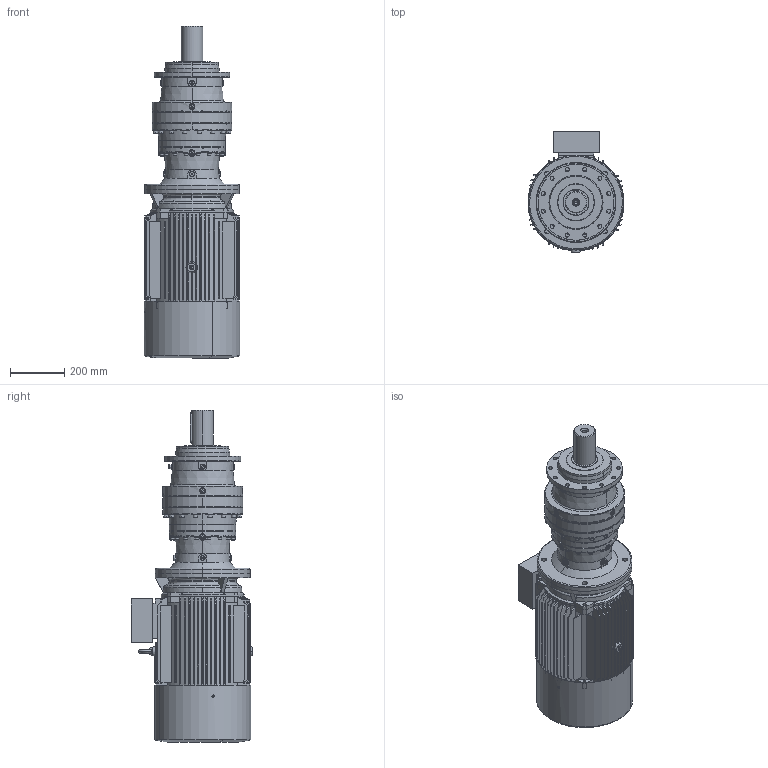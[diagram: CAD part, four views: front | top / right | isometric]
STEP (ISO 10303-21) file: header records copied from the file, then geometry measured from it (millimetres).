
FILE_DESCRIPTION (( 'STEP AP203' ), '1' );
FILE_NAME ('PVL-1902L-HS180L-4.STEP', '2019-05-27T10:22:24', ( '' ), ( '' ), 'SwSTEP 2.0', 'SolidWorks 2012', '' );
FILE_SCHEMA (( 'CONFIG_CONTROL_DESIGN' ));
Products named in the file (15): Y2-180C++A+¦-¯ª¦+¦_-++ñ; Y2-180-4.6.8-ª+---®+_-++ñ; Y2-180LB5+À+¿_-++ñ; Y2-180+¦i-_-++ñ; Eyebolts GB_GB_FASTENER_SCREWS_FRS M12; PNL_1902L_0_0_A18_B5_ML25A_FL5A_0_0_0_0_0_0_0_0_0_0_0_M1; FL5A_Varsayìlan; ML25A_Varsayìlan; P19_Varsayìlan; 15180B5_Varsayìlan; EK1902L_Varsayìlan; PVL-1902L-HS180L-4; M3-HS180L-FF-B5; Y2-180-4.6.8+ª-¯ª­-È®+_-++ñ; M3-180L-FF-B5
Assembly tree (14 placements, depth 4):
  PVL-1902L-HS180L-4
    PNL_1902L_0_0_A18_B5_ML25A_FL5A_0_0_0_0_0_0_0_0_0_0_0_M1
      P19_Varsayìlan
      15180B5_Varsayìlan
      ML25A_Varsayìlan
      EK1902L_Varsayìlan
      FL5A_Varsayìlan
    M3-HS180L-FF-B5
      M3-180L-FF-B5
        Eyebolts GB_GB_FASTENER_SCREWS_FRS M12
        Y2-180LB5+À+¿_-++ñ
        Y2-180+¦i-_-++ñ
        Y2-180-4.6.8-ª+---®+_-++ñ
        Y2-180C++A+¦-¯ª¦+¦_-++ñ
        Y2-180-4.6.8+ª-¯ª­-È®+_-++ñ
Bounding box: 354.06 x 448.7 x 1226 mm (x, y, z)
Volume: 33250877.4 mm3; surface area: 3994619.3 mm2
Topology: 16 solids, 16 shells, 2555 faces, 6811 edges, 4376 vertices
Faces by surface type: plane 1145, cylinder 820, cone 380, bspline 178, torus 32
Entity records: 91163 total; most frequent: CARTESIAN_POINT 26646, ORIENTED_EDGE 13490, DIRECTION 13070, EDGE_CURVE 6745, AXIS2_PLACEMENT_3D 5046, VERTEX_POINT 4376, LINE 2978, VECTOR 2978
